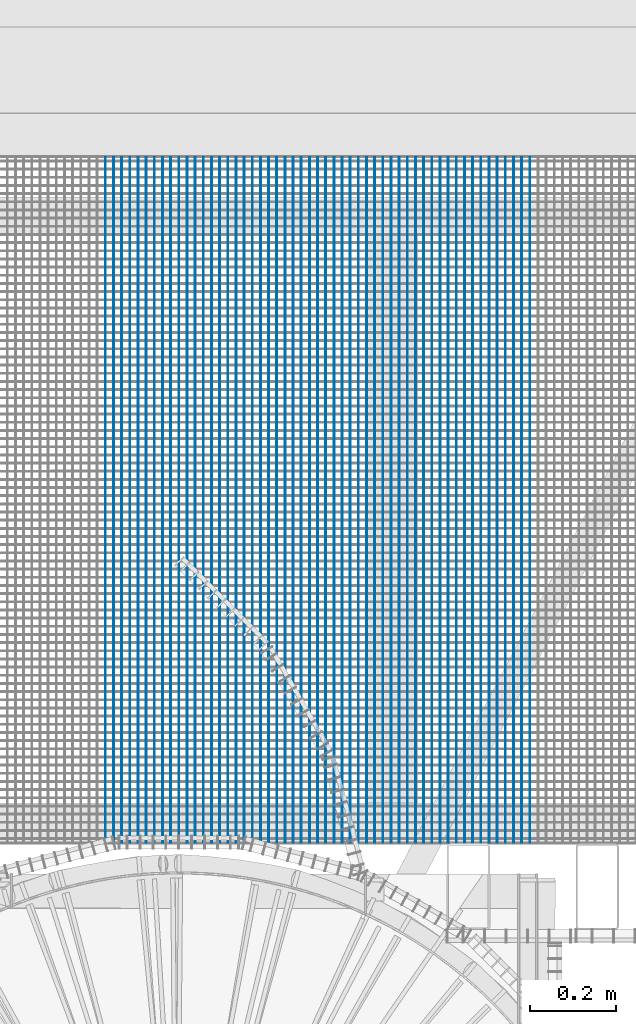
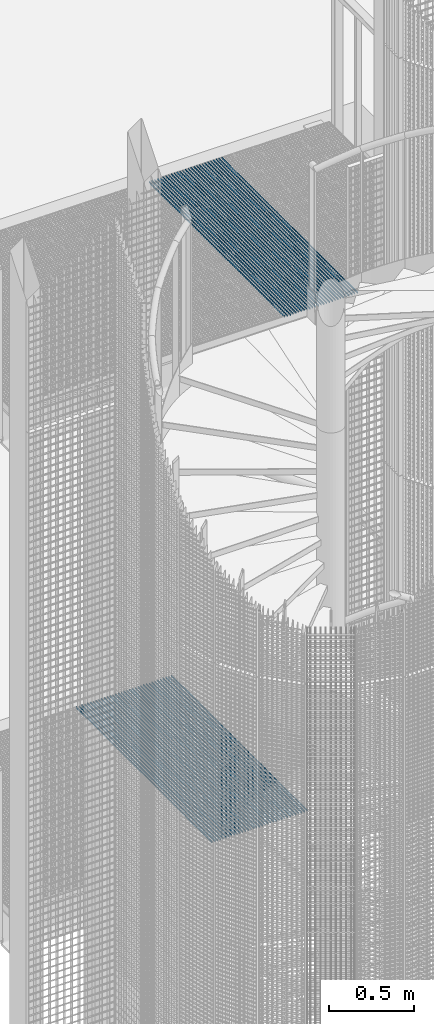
# One storey, part 98 of 1148: 62 beams, 2 elements without a shape of their own.
"""IFC2X3 building model written with IfcOpenShell, lengths in millimetres."""

import ifcopenshell
import ifcopenshell.guid

model = None  # the IFC model being written
_history = None  # IfcOwnerHistory: only IFC2X3 demands one
_inside = {}  # id of a spatial element -> (the spatial element, [elements in it])
_under = {}  # id of a project, library or spatial element -> (it, [spatial elements below it])
_declared = {}  # id of a project -> (the project, [libraries it declares])
_typed = {}  # id of a type object -> (the type object, [elements of that type])
_made_of = {}  # id of a material, layer set ... -> (it, [elements and type objects made of it])


def new_model(schema):
    """Start an empty IFC model of exactly this schema.

    Asked for "IFC4X3", IfcOpenShell would pick the latest addendum, in which some entities
    have other attributes; the version numbers below select the first issue.
    IFC2X3 requires an IfcOwnerHistory on every rooted entity: one is made here for all.
    """
    global model, _history
    if schema == "IFC4X3":
        model = ifcopenshell.file(schema_version=(4, 3, 0, 0))
    else:
        model = ifcopenshell.file(schema=schema)
    _inside.clear()
    _under.clear()
    _declared.clear()
    _typed.clear()
    _made_of.clear()
    _history = None
    if model.schema == "IFC2X3":
        org = make("IfcOrganization", Name="unknown")
        user = make(
            "IfcPersonAndOrganization",
            ThePerson=make("IfcPerson", FamilyName="unknown"),
            TheOrganization=org,
        )
        app = make(
            "IfcApplication",
            ApplicationDeveloper=org,
            Version="unknown",
            ApplicationFullName="unknown",
            ApplicationIdentifier="unknown",
        )
        _history = make(
            "IfcOwnerHistory",
            OwningUser=user,
            OwningApplication=app,
            ChangeAction="ADDED",
            CreationDate=0,
        )
    return model


def make(cls, **values):
    """One entity of the class cls with the attributes given. An attribute that is None is left unset."""
    return model.create_entity(
        cls, **{name: value for name, value in values.items() if value is not None}
    )


def rooted(cls, **values):
    """An entity with a GlobalId (a new one), such as an element, a storey or a relation."""
    return make(cls, GlobalId=ifcopenshell.guid.new(), OwnerHistory=_history, **values)


def si_unit(unit_type, name, prefix=None):
    """IfcSIUnit, for example si_unit("LENGTHUNIT", "METRE", prefix="MILLI")."""
    return make("IfcSIUnit", UnitType=unit_type, Prefix=prefix, Name=name)


def assignment(units):
    """IfcUnitAssignment: the units of a project."""
    return None if units is None else make("IfcUnitAssignment", Units=units)


def point(xyz):
    """IfcCartesianPoint."""
    return None if xyz is None else make("IfcCartesianPoint", Coordinates=xyz)


def direction(xyz):
    """IfcDirection."""
    return None if xyz is None else make("IfcDirection", DirectionRatios=xyz)


def frame(location, z_axis=None, x_axis=None):
    """IfcAxis2Placement3D, a coordinate frame: its origin and axes. An axis left out is left unset."""
    return make(
        "IfcAxis2Placement3D",
        Location=point(location),
        Axis=direction(z_axis),
        RefDirection=direction(x_axis),
    )


def frame_2d(location, x_axis=None):
    """IfcAxis2Placement2D, a coordinate frame in the plane: its origin and x axis."""
    return make(
        "IfcAxis2Placement2D", Location=point(location), RefDirection=direction(x_axis)
    )


def origin_with_axes():
    """The frame at (0, 0, 0) with the z axis (0, 0, 1) and the x axis (1, 0, 0) written out."""
    return frame((0.0, 0.0, 0.0), z_axis=(0.0, 0.0, 1.0), x_axis=(1.0, 0.0, 0.0))


def origin_2d_with_axis():
    """The frame at (0, 0) in the plane with the x axis (1, 0) written out."""
    return frame_2d((0.0, 0.0), x_axis=(1.0, 0.0))


def place(relative_to, where):
    """IfcLocalPlacement: puts the frame where relative to a parent placement (None: the world)."""
    return make(
        "IfcLocalPlacement", PlacementRelTo=relative_to, RelativePlacement=where
    )


def context(
    kind, dimensions, precision=None, world=None, true_north=None, identifier=None
):
    """IfcGeometricRepresentationContext, for example the 3D "Model" context."""
    return make(
        "IfcGeometricRepresentationContext",
        ContextIdentifier=identifier,
        ContextType=kind,
        CoordinateSpaceDimension=dimensions,
        Precision=precision,
        WorldCoordinateSystem=world,
        TrueNorth=true_north,
    )


def subcontext(parent, identifier, kind, view, scale=None):
    """IfcGeometricRepresentationSubContext, for example "Body" below "Model"."""
    return make(
        "IfcGeometricRepresentationSubContext",
        ContextIdentifier=identifier,
        ContextType=kind,
        ParentContext=parent,
        TargetScale=scale,
        TargetView=view,
    )


def project(units=None, contexts=None):
    """IfcProject with its units and contexts."""
    return rooted(
        "IfcProject",
        Name="project",
        RepresentationContexts=contexts,
        UnitsInContext=assignment(units),
    )


def spatial(cls, under=None, at=None, **own):
    """A site, building, storey or space (cls), placed at a placement, below another one or the project."""
    s = rooted(cls, ObjectPlacement=at, **own)
    if under is not None:
        _under.setdefault(under.id(), (under, []))[1].append(s)
    return s


def profile(cls, at=None, kind="AREA", **sizes):
    """A parametric profile (cls). Its sizes go by their IFC names, for example OverallWidth=200.0."""
    return make(cls, ProfileType=kind, Position=at, **sizes)


def rectangle(**sizes):
    """IfcRectangleProfileDef."""
    return profile("IfcRectangleProfileDef", **sizes)


def extrude(swept, where, along, depth):
    """IfcExtrudedAreaSolid: the profile swept, set in the frame where, extruded along a direction by depth."""
    return make(
        "IfcExtrudedAreaSolid",
        SweptArea=swept,
        Position=where,
        ExtrudedDirection=direction(along),
        Depth=depth,
    )


def shape(context_of_items, identifier, shape_type, items):
    """IfcShapeRepresentation: the items that make up one representation, for example the "Body"."""
    return make(
        "IfcShapeRepresentation",
        ContextOfItems=context_of_items,
        RepresentationIdentifier=identifier,
        RepresentationType=shape_type,
        Items=items,
    )


def material(Name=None, Category=None):
    """IfcMaterial."""
    return make("IfcMaterial", Name=Name, Category=Category)


def made_of(thing, what):
    """Note that an element or type object is made of a material, layer set ...; save() writes the relation."""
    if what is not None:
        _made_of.setdefault(what.id(), (what, []))[1].append(thing)
    return thing


def type_object(cls, material=None, **own):
    """A type object (cls), such as IfcWallType, which elements share."""
    return made_of(rooted(cls, **own), material)


def element(
    cls,
    number,
    at=None,
    inside=None,
    cuts=None,
    type_object=None,
    material=None,
    context=None,
    identifier="Body",
    shape_type=None,
    held_by="IfcProductDefinitionShape",
    body=None,
    shapes=None,
    **own,
):
    """One element of the class cls, such as IfcWall. Its Tag is "e" and its number.

    at: its placement. inside: the storey or other place that contains it. cuts: it is an
    opening in that element (IfcRelVoidsElement). A single representation is given by context,
    identifier, shape_type and body (its items); several are given by shapes. held_by: the class
    of the entity that holds the representations. save() writes the other relations.
    """
    e = rooted(cls, Tag="e%d" % number, ObjectPlacement=at, **own)
    if body is not None:
        shapes = [shape(context, identifier, shape_type, body)]
    if shapes is not None:
        e.Representation = make(held_by, Representations=shapes)
    if inside is not None:
        _inside.setdefault(inside.id(), (inside, []))[1].append(e)
    if cuts is not None:
        rooted(
            "IfcRelVoidsElement", RelatingBuildingElement=cuts, RelatedOpeningElement=e
        )
    if type_object is not None:
        _typed.setdefault(type_object.id(), (type_object, []))[1].append(e)
    return made_of(e, material)


def aggregate(whole, parts):
    """IfcRelAggregates: a whole, such as a stair, and the parts it consists of."""
    return rooted("IfcRelAggregates", RelatingObject=whole, RelatedObjects=parts)


def save(model, path):
    """Write the relations noted so far, then the file.

    IfcRelAggregates (storeys below a building ...), IfcRelContainedInSpatialStructure (elements
    in a storey), IfcRelDefinesByType, IfcRelAssociatesMaterial and IfcRelDeclares: one each for
    every whole, place, type object, material and project.
    """
    for whole, parts in _under.values():
        aggregate(whole, parts)
    for where, things in _inside.values():
        rooted(
            "IfcRelContainedInSpatialStructure",
            RelatedElements=things,
            RelatingStructure=where,
        )
    for kind, things in _typed.values():
        rooted("IfcRelDefinesByType", RelatedObjects=things, RelatingType=kind)
    for what, things in _made_of.values():
        rooted("IfcRelAssociatesMaterial", RelatedObjects=things, RelatingMaterial=what)
    for by, libraries in _declared.values():
        rooted("IfcRelDeclares", RelatingContext=by, RelatedDefinitions=libraries)
    model.write(path)


model = new_model("IFC2X3")

# Units and contexts
model_context = context("Model", 3, precision=1e-05, world=origin_with_axes())
body_context = subcontext(model_context, "Body", "Model", "MODEL_VIEW")
ifc_project = project(units=[si_unit("LENGTHUNIT", "METRE", prefix="MILLI"), si_unit("AREAUNIT", "SQUARE_METRE"), si_unit("VOLUMEUNIT", "CUBIC_METRE"), si_unit("MASSUNIT", "GRAM", prefix="KILO"), si_unit("TIMEUNIT", "SECOND"), si_unit("PLANEANGLEUNIT", "RADIAN"), si_unit("SOLIDANGLEUNIT", "STERADIAN"), si_unit("THERMODYNAMICTEMPERATUREUNIT", "DEGREE_CELSIUS"), si_unit("LUMINOUSINTENSITYUNIT", "LUMEN")], contexts=[model_context])

# Site, building, storey
site_placement = place(None, origin_with_axes())
site = spatial("IfcSite", under=ifc_project, at=site_placement, Name="Undefined", CompositionType="ELEMENT")
building_placement = place(site_placement, origin_with_axes())
building = spatial("IfcBuilding", under=site, at=building_placement, Name="Undefined", CompositionType="ELEMENT")
storey_placement = place(building_placement, origin_with_axes())
storey = spatial("IfcBuildingStorey", under=building, at=storey_placement, Name="Undefined", CompositionType="ELEMENT", Elevation=0.0)

# Assembly, beams
assembly_1_placement = place(storey_placement, origin_with_axes())
assembly_1 = element("IfcElementAssembly", 1, at=assembly_1_placement, inside=storey, Name="BORDURE", AssemblyPlace="NOTDEFINED", PredefinedType="NOTDEFINED")
ifc_material = material(Name="STEEL/S235JR")
beam_type = type_object("IfcBeamType", Name="PL2*10", PredefinedType="NOTDEFINED")
beam_1_placement = place(assembly_1_placement, frame((21923.1154247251, 1102.00390883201, 10085.0), z_axis=(0.0, 0.0, 1.0), x_axis=(-4.50599999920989e-06, 0.999999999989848, 0.0)))
beam_1 = element("IfcBeam", 2, at=beam_1_placement, type_object=beam_type, material=ifc_material, Name="ENTRETOISE", context=body_context, shape_type="SweptSolid", body=[
    extrude(rectangle(XDim=2.0, YDim=10.0, at=origin_2d_with_axis()), frame((1596.0000000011, -1.35186458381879e-18, -7.27595761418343e-12), z_axis=(-1.0, 0.0, 0.0), x_axis=(0.0, -1.0, 0.0)), (0.0, 0.0, 1.0), 1596.0),
])
beam_2_placement = place(assembly_1_placement, frame((21942.115424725, 1102.00400234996, 10085.0), z_axis=(0.0, 0.0, 1.0), x_axis=(-4.50599999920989e-06, 0.999999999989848, 0.0)))
beam_2 = element("IfcBeam", 3, at=beam_2_placement, type_object=beam_type, material=ifc_material, Name="ENTRETOISE", context=body_context, shape_type="SweptSolid", body=[
    extrude(rectangle(XDim=2.0, YDim=10.0, at=origin_2d_with_axis()), frame((1596.0000000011, -1.35186458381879e-18, -7.27595761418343e-12), z_axis=(-1.0, 0.0, 0.0), x_axis=(0.0, -1.0, 0.0)), (0.0, 0.0, 1.0), 1596.0),
])
beam_3_placement = place(assembly_1_placement, frame((21961.115424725, 1102.00409586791, 10085.0), z_axis=(0.0, 0.0, 1.0), x_axis=(-4.50599999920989e-06, 0.999999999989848, 0.0)))
beam_3 = element("IfcBeam", 4, at=beam_3_placement, type_object=beam_type, material=ifc_material, Name="ENTRETOISE", context=body_context, shape_type="SweptSolid", body=[
    extrude(rectangle(XDim=2.0, YDim=10.0, at=origin_2d_with_axis()), frame((1596.0000000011, -1.35186458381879e-18, -7.27595761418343e-12), z_axis=(-1.0, 0.0, 0.0), x_axis=(0.0, -1.0, 0.0)), (0.0, 0.0, 1.0), 1596.0),
])
beam_4_placement = place(assembly_1_placement, frame((21980.1154247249, 1102.00418938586, 10085.0), z_axis=(0.0, 0.0, 1.0), x_axis=(-4.50599999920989e-06, 0.999999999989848, 0.0)))
beam_4 = element("IfcBeam", 5, at=beam_4_placement, type_object=beam_type, material=ifc_material, Name="ENTRETOISE", context=body_context, shape_type="SweptSolid", body=[
    extrude(rectangle(XDim=2.0, YDim=10.0, at=origin_2d_with_axis()), frame((1596.0000000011, -1.35186458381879e-18, -7.27595761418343e-12), z_axis=(-1.0, 0.0, 0.0), x_axis=(0.0, -1.0, 0.0)), (0.0, 0.0, 1.0), 1596.0),
])
beam_5_placement = place(assembly_1_placement, frame((21999.1154247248, 1102.0042829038, 10085.0), z_axis=(0.0, 0.0, 1.0), x_axis=(-4.50599999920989e-06, 0.999999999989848, 0.0)))
beam_5 = element("IfcBeam", 6, at=beam_5_placement, type_object=beam_type, material=ifc_material, Name="ENTRETOISE", context=body_context, shape_type="SweptSolid", body=[
    extrude(rectangle(XDim=2.0, YDim=10.0, at=origin_2d_with_axis()), frame((1596.0000000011, -1.35186458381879e-18, -7.27595761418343e-12), z_axis=(-1.0, 0.0, 0.0), x_axis=(0.0, -1.0, 0.0)), (0.0, 0.0, 1.0), 1596.0),
])
beam_6_placement = place(assembly_1_placement, frame((22018.1154247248, 1102.00437642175, 10085.0), z_axis=(0.0, 0.0, 1.0), x_axis=(-4.50599999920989e-06, 0.999999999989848, 0.0)))
beam_6 = element("IfcBeam", 7, at=beam_6_placement, type_object=beam_type, material=ifc_material, Name="ENTRETOISE", context=body_context, shape_type="SweptSolid", body=[
    extrude(rectangle(XDim=2.0, YDim=10.0, at=origin_2d_with_axis()), frame((1596.0000000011, -1.35186458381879e-18, -7.27595761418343e-12), z_axis=(-1.0, 0.0, 0.0), x_axis=(0.0, -1.0, 0.0)), (0.0, 0.0, 1.0), 1596.0),
])
beam_7_placement = place(assembly_1_placement, frame((22037.1154247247, 1102.0044699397, 10085.0), z_axis=(0.0, 0.0, 1.0), x_axis=(-4.50599999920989e-06, 0.999999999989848, 0.0)))
beam_7 = element("IfcBeam", 8, at=beam_7_placement, type_object=beam_type, material=ifc_material, Name="ENTRETOISE", context=body_context, shape_type="SweptSolid", body=[
    extrude(rectangle(XDim=2.0, YDim=10.0, at=origin_2d_with_axis()), frame((1596.0000000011, -1.35186458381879e-18, -7.27595761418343e-12), z_axis=(-1.0, 0.0, 0.0), x_axis=(0.0, -1.0, 0.0)), (0.0, 0.0, 1.0), 1596.0),
])
beam_8_placement = place(assembly_1_placement, frame((22056.1154247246, 1102.00456345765, 10085.0), z_axis=(0.0, 0.0, 1.0), x_axis=(-4.50599999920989e-06, 0.999999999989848, 0.0)))
beam_8 = element("IfcBeam", 9, at=beam_8_placement, type_object=beam_type, material=ifc_material, Name="ENTRETOISE", context=body_context, shape_type="SweptSolid", body=[
    extrude(rectangle(XDim=2.0, YDim=10.0, at=origin_2d_with_axis()), frame((1596.0000000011, -1.35186458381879e-18, -7.27595761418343e-12), z_axis=(-1.0, 0.0, 0.0), x_axis=(0.0, -1.0, 0.0)), (0.0, 0.0, 1.0), 1596.0),
])
beam_9_placement = place(assembly_1_placement, frame((22075.1154247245, 1102.0046569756, 10085.0), z_axis=(0.0, 0.0, 1.0), x_axis=(-4.50599999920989e-06, 0.999999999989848, 0.0)))
beam_9 = element("IfcBeam", 10, at=beam_9_placement, type_object=beam_type, material=ifc_material, Name="ENTRETOISE", context=body_context, shape_type="SweptSolid", body=[
    extrude(rectangle(XDim=2.0, YDim=10.0, at=origin_2d_with_axis()), frame((1596.0000000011, -1.35186458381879e-18, -7.27595761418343e-12), z_axis=(-1.0, 0.0, 0.0), x_axis=(0.0, -1.0, 0.0)), (0.0, 0.0, 1.0), 1596.0),
])
beam_10_placement = place(assembly_1_placement, frame((22094.1154247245, 1102.00475049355, 10085.0), z_axis=(0.0, 0.0, 1.0), x_axis=(-4.50599999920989e-06, 0.999999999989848, 0.0)))
beam_10 = element("IfcBeam", 11, at=beam_10_placement, type_object=beam_type, material=ifc_material, Name="ENTRETOISE", context=body_context, shape_type="SweptSolid", body=[
    extrude(rectangle(XDim=2.0, YDim=10.0, at=origin_2d_with_axis()), frame((1596.0000000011, -1.35186458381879e-18, -7.27595761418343e-12), z_axis=(-1.0, 0.0, 0.0), x_axis=(0.0, -1.0, 0.0)), (0.0, 0.0, 1.0), 1596.0),
])
beam_11_placement = place(assembly_1_placement, frame((22113.1154247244, 1102.0048440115, 10085.0), z_axis=(0.0, 0.0, 1.0), x_axis=(-4.50599999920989e-06, 0.999999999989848, 0.0)))
beam_11 = element("IfcBeam", 12, at=beam_11_placement, type_object=beam_type, material=ifc_material, Name="ENTRETOISE", context=body_context, shape_type="SweptSolid", body=[
    extrude(rectangle(XDim=2.0, YDim=10.0, at=origin_2d_with_axis()), frame((1596.0000000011, -1.35186458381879e-18, -7.27595761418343e-12), z_axis=(-1.0, 0.0, 0.0), x_axis=(0.0, -1.0, 0.0)), (0.0, 0.0, 1.0), 1596.0),
])
beam_12_placement = place(assembly_1_placement, frame((22132.1154247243, 1102.00493752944, 10085.0), z_axis=(0.0, 0.0, 1.0), x_axis=(-4.50599999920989e-06, 0.999999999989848, 0.0)))
beam_12 = element("IfcBeam", 13, at=beam_12_placement, type_object=beam_type, material=ifc_material, Name="ENTRETOISE", context=body_context, shape_type="SweptSolid", body=[
    extrude(rectangle(XDim=2.0, YDim=10.0, at=origin_2d_with_axis()), frame((1596.0000000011, -1.35186458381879e-18, -7.27595761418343e-12), z_axis=(-1.0, 0.0, 0.0), x_axis=(0.0, -1.0, 0.0)), (0.0, 0.0, 1.0), 1596.0),
])
beam_13_placement = place(assembly_1_placement, frame((22151.1154247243, 1102.00503104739, 10085.0), z_axis=(0.0, 0.0, 1.0), x_axis=(-4.50599999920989e-06, 0.999999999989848, 0.0)))
beam_13 = element("IfcBeam", 14, at=beam_13_placement, type_object=beam_type, material=ifc_material, Name="ENTRETOISE", context=body_context, shape_type="SweptSolid", body=[
    extrude(rectangle(XDim=2.0, YDim=10.0, at=origin_2d_with_axis()), frame((1596.0000000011, -1.35186458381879e-18, -7.27595761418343e-12), z_axis=(-1.0, 0.0, 0.0), x_axis=(0.0, -1.0, 0.0)), (0.0, 0.0, 1.0), 1596.0),
])
beam_14_placement = place(assembly_1_placement, frame((22170.1154247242, 1102.00512456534, 10085.0), z_axis=(0.0, 0.0, 1.0), x_axis=(-4.50599999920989e-06, 0.999999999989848, 0.0)))
beam_14 = element("IfcBeam", 15, at=beam_14_placement, type_object=beam_type, material=ifc_material, Name="ENTRETOISE", context=body_context, shape_type="SweptSolid", body=[
    extrude(rectangle(XDim=2.0, YDim=10.0, at=origin_2d_with_axis()), frame((1596.0000000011, -1.35186458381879e-18, -7.27595761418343e-12), z_axis=(-1.0, 0.0, 0.0), x_axis=(0.0, -1.0, 0.0)), (0.0, 0.0, 1.0), 1596.0),
])
beam_15_placement = place(assembly_1_placement, frame((22189.1154247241, 1102.00521808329, 10085.0), z_axis=(0.0, 0.0, 1.0), x_axis=(-4.50599999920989e-06, 0.999999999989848, 0.0)))
beam_15 = element("IfcBeam", 16, at=beam_15_placement, type_object=beam_type, material=ifc_material, Name="ENTRETOISE", context=body_context, shape_type="SweptSolid", body=[
    extrude(rectangle(XDim=2.0, YDim=10.0, at=origin_2d_with_axis()), frame((1596.0000000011, -1.35186458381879e-18, -7.27595761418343e-12), z_axis=(-1.0, 0.0, 0.0), x_axis=(0.0, -1.0, 0.0)), (0.0, 0.0, 1.0), 1596.0),
])
beam_16_placement = place(assembly_1_placement, frame((22208.1154247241, 1102.00531160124, 10085.0), z_axis=(0.0, 0.0, 1.0), x_axis=(-4.50599999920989e-06, 0.999999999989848, 0.0)))
beam_16 = element("IfcBeam", 17, at=beam_16_placement, type_object=beam_type, material=ifc_material, Name="ENTRETOISE", context=body_context, shape_type="SweptSolid", body=[
    extrude(rectangle(XDim=2.0, YDim=10.0, at=origin_2d_with_axis()), frame((1596.0000000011, -1.35186458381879e-18, -7.27595761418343e-12), z_axis=(-1.0, 0.0, 0.0), x_axis=(0.0, -1.0, 0.0)), (0.0, 0.0, 1.0), 1596.0),
])
beam_17_placement = place(assembly_1_placement, frame((22227.115424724, 1102.00540511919, 10085.0), z_axis=(0.0, 0.0, 1.0), x_axis=(-4.50599999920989e-06, 0.999999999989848, 0.0)))
beam_17 = element("IfcBeam", 18, at=beam_17_placement, type_object=beam_type, material=ifc_material, Name="ENTRETOISE", context=body_context, shape_type="SweptSolid", body=[
    extrude(rectangle(XDim=2.0, YDim=10.0, at=origin_2d_with_axis()), frame((1596.0000000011, -1.35186458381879e-18, -7.27595761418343e-12), z_axis=(-1.0, 0.0, 0.0), x_axis=(0.0, -1.0, 0.0)), (0.0, 0.0, 1.0), 1596.0),
])
beam_18_placement = place(assembly_1_placement, frame((22246.1154247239, 1102.00549863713, 10085.0), z_axis=(0.0, 0.0, 1.0), x_axis=(-4.50599999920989e-06, 0.999999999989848, 0.0)))
beam_18 = element("IfcBeam", 19, at=beam_18_placement, type_object=beam_type, material=ifc_material, Name="ENTRETOISE", context=body_context, shape_type="SweptSolid", body=[
    extrude(rectangle(XDim=2.0, YDim=10.0, at=origin_2d_with_axis()), frame((1596.0000000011, -1.35186458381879e-18, -7.27595761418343e-12), z_axis=(-1.0, 0.0, 0.0), x_axis=(0.0, -1.0, 0.0)), (0.0, 0.0, 1.0), 1596.0),
])
beam_19_placement = place(assembly_1_placement, frame((22265.1154247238, 1102.00559215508, 10085.0), z_axis=(0.0, 0.0, 1.0), x_axis=(-4.50599999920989e-06, 0.999999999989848, 0.0)))
beam_19 = element("IfcBeam", 20, at=beam_19_placement, type_object=beam_type, material=ifc_material, Name="ENTRETOISE", context=body_context, shape_type="SweptSolid", body=[
    extrude(rectangle(XDim=2.0, YDim=10.0, at=origin_2d_with_axis()), frame((1596.0000000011, -1.35186458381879e-18, -7.27595761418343e-12), z_axis=(-1.0, 0.0, 0.0), x_axis=(0.0, -1.0, 0.0)), (0.0, 0.0, 1.0), 1596.0),
])
beam_20_placement = place(assembly_1_placement, frame((22284.1154247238, 1102.00568567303, 10085.0), z_axis=(0.0, 0.0, 1.0), x_axis=(-4.50599999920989e-06, 0.999999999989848, 0.0)))
beam_20 = element("IfcBeam", 21, at=beam_20_placement, type_object=beam_type, material=ifc_material, Name="ENTRETOISE", context=body_context, shape_type="SweptSolid", body=[
    extrude(rectangle(XDim=2.0, YDim=10.0, at=origin_2d_with_axis()), frame((1596.0000000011, -1.35186458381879e-18, -7.27595761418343e-12), z_axis=(-1.0, 0.0, 0.0), x_axis=(0.0, -1.0, 0.0)), (0.0, 0.0, 1.0), 1596.0),
])
beam_21_placement = place(assembly_1_placement, frame((22303.1154247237, 1102.00577919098, 10085.0), z_axis=(0.0, 0.0, 1.0), x_axis=(-4.50599999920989e-06, 0.999999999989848, 0.0)))
beam_21 = element("IfcBeam", 22, at=beam_21_placement, type_object=beam_type, material=ifc_material, Name="ENTRETOISE", context=body_context, shape_type="SweptSolid", body=[
    extrude(rectangle(XDim=2.0, YDim=10.0, at=origin_2d_with_axis()), frame((1596.0000000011, -1.35186458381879e-18, -7.27595761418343e-12), z_axis=(-1.0, 0.0, 0.0), x_axis=(0.0, -1.0, 0.0)), (0.0, 0.0, 1.0), 1596.0),
])
beam_22_placement = place(assembly_1_placement, frame((22322.1154247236, 1102.00587270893, 10085.0), z_axis=(0.0, 0.0, 1.0), x_axis=(-4.50599999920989e-06, 0.999999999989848, 0.0)))
beam_22 = element("IfcBeam", 23, at=beam_22_placement, type_object=beam_type, material=ifc_material, Name="ENTRETOISE", context=body_context, shape_type="SweptSolid", body=[
    extrude(rectangle(XDim=2.0, YDim=10.0, at=origin_2d_with_axis()), frame((1596.0000000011, -1.35186458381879e-18, -7.27595761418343e-12), z_axis=(-1.0, 0.0, 0.0), x_axis=(0.0, -1.0, 0.0)), (0.0, 0.0, 1.0), 1596.0),
])
beam_23_placement = place(assembly_1_placement, frame((22341.1154247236, 1102.00596622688, 10085.0), z_axis=(0.0, 0.0, 1.0), x_axis=(-4.50599999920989e-06, 0.999999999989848, 0.0)))
beam_23 = element("IfcBeam", 24, at=beam_23_placement, type_object=beam_type, material=ifc_material, Name="ENTRETOISE", context=body_context, shape_type="SweptSolid", body=[
    extrude(rectangle(XDim=2.0, YDim=10.0, at=origin_2d_with_axis()), frame((1596.0000000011, -1.35186458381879e-18, -7.27595761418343e-12), z_axis=(-1.0, 0.0, 0.0), x_axis=(0.0, -1.0, 0.0)), (0.0, 0.0, 1.0), 1596.0),
])
beam_24_placement = place(assembly_1_placement, frame((22360.1154247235, 1102.00605974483, 10085.0), z_axis=(0.0, 0.0, 1.0), x_axis=(-4.50599999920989e-06, 0.999999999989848, 0.0)))
beam_24 = element("IfcBeam", 25, at=beam_24_placement, type_object=beam_type, material=ifc_material, Name="ENTRETOISE", context=body_context, shape_type="SweptSolid", body=[
    extrude(rectangle(XDim=2.0, YDim=10.0, at=origin_2d_with_axis()), frame((1596.0000000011, -1.35186458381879e-18, -7.27595761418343e-12), z_axis=(-1.0, 0.0, 0.0), x_axis=(0.0, -1.0, 0.0)), (0.0, 0.0, 1.0), 1596.0),
])
beam_25_placement = place(assembly_1_placement, frame((22379.1154247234, 1102.00615326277, 10085.0), z_axis=(0.0, 0.0, 1.0), x_axis=(-4.50599999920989e-06, 0.999999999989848, 0.0)))
beam_25 = element("IfcBeam", 26, at=beam_25_placement, type_object=beam_type, material=ifc_material, Name="ENTRETOISE", context=body_context, shape_type="SweptSolid", body=[
    extrude(rectangle(XDim=2.0, YDim=10.0, at=origin_2d_with_axis()), frame((1596.0000000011, -1.35186458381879e-18, -7.27595761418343e-12), z_axis=(-1.0, 0.0, 0.0), x_axis=(0.0, -1.0, 0.0)), (0.0, 0.0, 1.0), 1596.0),
])
beam_26_placement = place(assembly_1_placement, frame((22398.1154247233, 1102.00624678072, 10085.0), z_axis=(0.0, 0.0, 1.0), x_axis=(-4.50599999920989e-06, 0.999999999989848, 0.0)))
beam_26 = element("IfcBeam", 27, at=beam_26_placement, type_object=beam_type, material=ifc_material, Name="ENTRETOISE", context=body_context, shape_type="SweptSolid", body=[
    extrude(rectangle(XDim=2.0, YDim=10.0, at=origin_2d_with_axis()), frame((1596.0000000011, -1.35186458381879e-18, -7.27595761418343e-12), z_axis=(-1.0, 0.0, 0.0), x_axis=(0.0, -1.0, 0.0)), (0.0, 0.0, 1.0), 1596.0),
])
beam_27_placement = place(assembly_1_placement, frame((22417.1154247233, 1102.00634029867, 10085.0), z_axis=(0.0, 0.0, 1.0), x_axis=(-4.50599999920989e-06, 0.999999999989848, 0.0)))
beam_27 = element("IfcBeam", 28, at=beam_27_placement, type_object=beam_type, material=ifc_material, Name="ENTRETOISE", context=body_context, shape_type="SweptSolid", body=[
    extrude(rectangle(XDim=2.0, YDim=10.0, at=origin_2d_with_axis()), frame((1596.0000000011, -1.35186458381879e-18, -7.27595761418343e-12), z_axis=(-1.0, 0.0, 0.0), x_axis=(0.0, -1.0, 0.0)), (0.0, 0.0, 1.0), 1596.0),
])
aggregate(assembly_1, [beam_1, beam_2, beam_3, beam_4, beam_5, beam_6, beam_7, beam_8, beam_9, beam_10, beam_11, beam_12, beam_13, beam_14, beam_15, beam_16, beam_17, beam_18, beam_19, beam_20, beam_21, beam_22, beam_23, beam_24, beam_25, beam_26, beam_27])

assembly_2_placement = place(storey_placement, origin_with_axes())
assembly_2 = element("IfcElementAssembly", 29, at=assembly_2_placement, inside=storey, Name="BORDURE", AssemblyPlace="NOTDEFINED", PredefinedType="NOTDEFINED")
beam_28_placement = place(assembly_2_placement, frame((21429.115424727, 1102.00147736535, 6485.0), z_axis=(0.0, 0.0, 1.0), x_axis=(-4.50599999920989e-06, 0.999999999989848, 0.0)))
beam_28 = element("IfcBeam", 30, at=beam_28_placement, type_object=beam_type, material=ifc_material, Name="ENTRETOISE", context=body_context, shape_type="SweptSolid", body=[
    extrude(rectangle(XDim=2.0, YDim=10.0, at=origin_2d_with_axis()), frame((1596.0000000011, -1.35186458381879e-18, -7.27595761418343e-12), z_axis=(-1.0, 0.0, 0.0), x_axis=(0.0, -1.0, 0.0)), (0.0, 0.0, 1.0), 1596.0),
])
beam_29_placement = place(assembly_2_placement, frame((21448.1154247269, 1102.0015708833, 6485.0), z_axis=(0.0, 0.0, 1.0), x_axis=(-4.50599999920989e-06, 0.999999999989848, 0.0)))
beam_29 = element("IfcBeam", 31, at=beam_29_placement, type_object=beam_type, material=ifc_material, Name="ENTRETOISE", context=body_context, shape_type="SweptSolid", body=[
    extrude(rectangle(XDim=2.0, YDim=10.0, at=origin_2d_with_axis()), frame((1596.0000000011, -1.35186458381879e-18, -7.27595761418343e-12), z_axis=(-1.0, 0.0, 0.0), x_axis=(0.0, -1.0, 0.0)), (0.0, 0.0, 1.0), 1596.0),
])
beam_30_placement = place(assembly_2_placement, frame((21467.1154247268, 1102.00166440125, 6485.0), z_axis=(0.0, 0.0, 1.0), x_axis=(-4.50599999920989e-06, 0.999999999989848, 0.0)))
beam_30 = element("IfcBeam", 32, at=beam_30_placement, type_object=beam_type, material=ifc_material, Name="ENTRETOISE", context=body_context, shape_type="SweptSolid", body=[
    extrude(rectangle(XDim=2.0, YDim=10.0, at=origin_2d_with_axis()), frame((1596.0000000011, -1.35186458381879e-18, -7.27595761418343e-12), z_axis=(-1.0, 0.0, 0.0), x_axis=(0.0, -1.0, 0.0)), (0.0, 0.0, 1.0), 1596.0),
])
beam_31_placement = place(assembly_2_placement, frame((21486.1154247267, 1102.0017579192, 6485.0), z_axis=(0.0, 0.0, 1.0), x_axis=(-4.50599999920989e-06, 0.999999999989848, 0.0)))
beam_31 = element("IfcBeam", 33, at=beam_31_placement, type_object=beam_type, material=ifc_material, Name="ENTRETOISE", context=body_context, shape_type="SweptSolid", body=[
    extrude(rectangle(XDim=2.0, YDim=10.0, at=origin_2d_with_axis()), frame((1596.0000000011, -1.35186458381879e-18, -7.27595761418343e-12), z_axis=(-1.0, 0.0, 0.0), x_axis=(0.0, -1.0, 0.0)), (0.0, 0.0, 1.0), 1596.0),
])
beam_32_placement = place(assembly_2_placement, frame((21505.1154247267, 1102.00185143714, 6485.0), z_axis=(0.0, 0.0, 1.0), x_axis=(-4.50599999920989e-06, 0.999999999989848, 0.0)))
beam_32 = element("IfcBeam", 34, at=beam_32_placement, type_object=beam_type, material=ifc_material, Name="ENTRETOISE", context=body_context, shape_type="SweptSolid", body=[
    extrude(rectangle(XDim=2.0, YDim=10.0, at=origin_2d_with_axis()), frame((1596.0000000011, -1.35186458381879e-18, -7.27595761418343e-12), z_axis=(-1.0, 0.0, 0.0), x_axis=(0.0, -1.0, 0.0)), (0.0, 0.0, 1.0), 1596.0),
])
beam_33_placement = place(assembly_2_placement, frame((21524.1154247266, 1102.00194495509, 6485.0), z_axis=(0.0, 0.0, 1.0), x_axis=(-4.50599999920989e-06, 0.999999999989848, 0.0)))
beam_33 = element("IfcBeam", 35, at=beam_33_placement, type_object=beam_type, material=ifc_material, Name="ENTRETOISE", context=body_context, shape_type="SweptSolid", body=[
    extrude(rectangle(XDim=2.0, YDim=10.0, at=origin_2d_with_axis()), frame((1596.0000000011, -1.35186458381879e-18, -7.27595761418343e-12), z_axis=(-1.0, 0.0, 0.0), x_axis=(0.0, -1.0, 0.0)), (0.0, 0.0, 1.0), 1596.0),
])
beam_34_placement = place(assembly_2_placement, frame((21543.1154247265, 1102.00203847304, 6485.0), z_axis=(0.0, 0.0, 1.0), x_axis=(-4.50599999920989e-06, 0.999999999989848, 0.0)))
beam_34 = element("IfcBeam", 36, at=beam_34_placement, type_object=beam_type, material=ifc_material, Name="ENTRETOISE", context=body_context, shape_type="SweptSolid", body=[
    extrude(rectangle(XDim=2.0, YDim=10.0, at=origin_2d_with_axis()), frame((1596.0000000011, -1.35186458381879e-18, -7.27595761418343e-12), z_axis=(-1.0, 0.0, 0.0), x_axis=(0.0, -1.0, 0.0)), (0.0, 0.0, 1.0), 1596.0),
])
beam_35_placement = place(assembly_2_placement, frame((21562.1154247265, 1102.00213199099, 6485.0), z_axis=(0.0, 0.0, 1.0), x_axis=(-4.50599999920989e-06, 0.999999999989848, 0.0)))
beam_35 = element("IfcBeam", 37, at=beam_35_placement, type_object=beam_type, material=ifc_material, Name="ENTRETOISE", context=body_context, shape_type="SweptSolid", body=[
    extrude(rectangle(XDim=2.0, YDim=10.0, at=origin_2d_with_axis()), frame((1596.0000000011, -1.35186458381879e-18, -7.27595761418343e-12), z_axis=(-1.0, 0.0, 0.0), x_axis=(0.0, -1.0, 0.0)), (0.0, 0.0, 1.0), 1596.0),
])
beam_36_placement = place(assembly_2_placement, frame((21581.1154247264, 1102.00222550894, 6485.0), z_axis=(0.0, 0.0, 1.0), x_axis=(-4.50599999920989e-06, 0.999999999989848, 0.0)))
beam_36 = element("IfcBeam", 38, at=beam_36_placement, type_object=beam_type, material=ifc_material, Name="ENTRETOISE", context=body_context, shape_type="SweptSolid", body=[
    extrude(rectangle(XDim=2.0, YDim=10.0, at=origin_2d_with_axis()), frame((1596.0000000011, -1.35186458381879e-18, -7.27595761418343e-12), z_axis=(-1.0, 0.0, 0.0), x_axis=(0.0, -1.0, 0.0)), (0.0, 0.0, 1.0), 1596.0),
])
beam_37_placement = place(assembly_2_placement, frame((21600.1154247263, 1102.00231902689, 6485.0), z_axis=(0.0, 0.0, 1.0), x_axis=(-4.50599999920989e-06, 0.999999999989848, 0.0)))
beam_37 = element("IfcBeam", 39, at=beam_37_placement, type_object=beam_type, material=ifc_material, Name="ENTRETOISE", context=body_context, shape_type="SweptSolid", body=[
    extrude(rectangle(XDim=2.0, YDim=10.0, at=origin_2d_with_axis()), frame((1596.0000000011, -1.35186458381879e-18, -7.27595761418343e-12), z_axis=(-1.0, 0.0, 0.0), x_axis=(0.0, -1.0, 0.0)), (0.0, 0.0, 1.0), 1596.0),
])
beam_38_placement = place(assembly_2_placement, frame((21619.1154247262, 1102.00241254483, 6485.0), z_axis=(0.0, 0.0, 1.0), x_axis=(-4.50599999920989e-06, 0.999999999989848, 0.0)))
beam_38 = element("IfcBeam", 40, at=beam_38_placement, type_object=beam_type, material=ifc_material, Name="ENTRETOISE", context=body_context, shape_type="SweptSolid", body=[
    extrude(rectangle(XDim=2.0, YDim=10.0, at=origin_2d_with_axis()), frame((1596.0000000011, -1.35186458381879e-18, -7.27595761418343e-12), z_axis=(-1.0, 0.0, 0.0), x_axis=(0.0, -1.0, 0.0)), (0.0, 0.0, 1.0), 1596.0),
])
beam_39_placement = place(assembly_2_placement, frame((21638.1154247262, 1102.00250606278, 6485.0), z_axis=(0.0, 0.0, 1.0), x_axis=(-4.50599999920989e-06, 0.999999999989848, 0.0)))
beam_39 = element("IfcBeam", 41, at=beam_39_placement, type_object=beam_type, material=ifc_material, Name="ENTRETOISE", context=body_context, shape_type="SweptSolid", body=[
    extrude(rectangle(XDim=2.0, YDim=10.0, at=origin_2d_with_axis()), frame((1596.0000000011, -1.35186458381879e-18, -7.27595761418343e-12), z_axis=(-1.0, 0.0, 0.0), x_axis=(0.0, -1.0, 0.0)), (0.0, 0.0, 1.0), 1596.0),
])
beam_40_placement = place(assembly_2_placement, frame((21657.1154247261, 1102.00259958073, 6485.0), z_axis=(0.0, 0.0, 1.0), x_axis=(-4.50599999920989e-06, 0.999999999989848, 0.0)))
beam_40 = element("IfcBeam", 42, at=beam_40_placement, type_object=beam_type, material=ifc_material, Name="ENTRETOISE", context=body_context, shape_type="SweptSolid", body=[
    extrude(rectangle(XDim=2.0, YDim=10.0, at=origin_2d_with_axis()), frame((1596.0000000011, -1.35186458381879e-18, -7.27595761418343e-12), z_axis=(-1.0, 0.0, 0.0), x_axis=(0.0, -1.0, 0.0)), (0.0, 0.0, 1.0), 1596.0),
])
beam_41_placement = place(assembly_2_placement, frame((21676.115424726, 1102.00269309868, 6485.0), z_axis=(0.0, 0.0, 1.0), x_axis=(-4.50599999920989e-06, 0.999999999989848, 0.0)))
beam_41 = element("IfcBeam", 43, at=beam_41_placement, type_object=beam_type, material=ifc_material, Name="ENTRETOISE", context=body_context, shape_type="SweptSolid", body=[
    extrude(rectangle(XDim=2.0, YDim=10.0, at=origin_2d_with_axis()), frame((1596.0000000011, -1.35186458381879e-18, -7.27595761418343e-12), z_axis=(-1.0, 0.0, 0.0), x_axis=(0.0, -1.0, 0.0)), (0.0, 0.0, 1.0), 1596.0),
])
beam_42_placement = place(assembly_2_placement, frame((21695.115424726, 1102.00278661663, 6485.0), z_axis=(0.0, 0.0, 1.0), x_axis=(-4.50599999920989e-06, 0.999999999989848, 0.0)))
beam_42 = element("IfcBeam", 44, at=beam_42_placement, type_object=beam_type, material=ifc_material, Name="ENTRETOISE", context=body_context, shape_type="SweptSolid", body=[
    extrude(rectangle(XDim=2.0, YDim=10.0, at=origin_2d_with_axis()), frame((1596.0000000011, -1.35186458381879e-18, -7.27595761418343e-12), z_axis=(-1.0, 0.0, 0.0), x_axis=(0.0, -1.0, 0.0)), (0.0, 0.0, 1.0), 1596.0),
])
beam_43_placement = place(assembly_2_placement, frame((21714.1154247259, 1102.00288013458, 6485.0), z_axis=(0.0, 0.0, 1.0), x_axis=(-4.50599999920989e-06, 0.999999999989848, 0.0)))
beam_43 = element("IfcBeam", 45, at=beam_43_placement, type_object=beam_type, material=ifc_material, Name="ENTRETOISE", context=body_context, shape_type="SweptSolid", body=[
    extrude(rectangle(XDim=2.0, YDim=10.0, at=origin_2d_with_axis()), frame((1596.0000000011, -1.35186458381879e-18, -7.27595761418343e-12), z_axis=(-1.0, 0.0, 0.0), x_axis=(0.0, -1.0, 0.0)), (0.0, 0.0, 1.0), 1596.0),
])
beam_44_placement = place(assembly_2_placement, frame((21733.1154247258, 1102.00297365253, 6485.0), z_axis=(0.0, 0.0, 1.0), x_axis=(-4.50599999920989e-06, 0.999999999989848, 0.0)))
beam_44 = element("IfcBeam", 46, at=beam_44_placement, type_object=beam_type, material=ifc_material, Name="ENTRETOISE", context=body_context, shape_type="SweptSolid", body=[
    extrude(rectangle(XDim=2.0, YDim=10.0, at=origin_2d_with_axis()), frame((1596.0000000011, -1.35186458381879e-18, -7.27595761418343e-12), z_axis=(-1.0, 0.0, 0.0), x_axis=(0.0, -1.0, 0.0)), (0.0, 0.0, 1.0), 1596.0),
])
beam_45_placement = place(assembly_2_placement, frame((21752.1154247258, 1102.00306717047, 6485.0), z_axis=(0.0, 0.0, 1.0), x_axis=(-4.50599999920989e-06, 0.999999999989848, 0.0)))
beam_45 = element("IfcBeam", 47, at=beam_45_placement, type_object=beam_type, material=ifc_material, Name="ENTRETOISE", context=body_context, shape_type="SweptSolid", body=[
    extrude(rectangle(XDim=2.0, YDim=10.0, at=origin_2d_with_axis()), frame((1596.0000000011, -1.35186458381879e-18, -7.27595761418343e-12), z_axis=(-1.0, 0.0, 0.0), x_axis=(0.0, -1.0, 0.0)), (0.0, 0.0, 1.0), 1596.0),
])
beam_46_placement = place(assembly_2_placement, frame((21771.1154247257, 1102.00316068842, 6485.0), z_axis=(0.0, 0.0, 1.0), x_axis=(-4.50599999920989e-06, 0.999999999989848, 0.0)))
beam_46 = element("IfcBeam", 48, at=beam_46_placement, type_object=beam_type, material=ifc_material, Name="ENTRETOISE", context=body_context, shape_type="SweptSolid", body=[
    extrude(rectangle(XDim=2.0, YDim=10.0, at=origin_2d_with_axis()), frame((1596.0000000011, -1.35186458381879e-18, -7.27595761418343e-12), z_axis=(-1.0, 0.0, 0.0), x_axis=(0.0, -1.0, 0.0)), (0.0, 0.0, 1.0), 1596.0),
])
beam_47_placement = place(assembly_2_placement, frame((21790.1154247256, 1102.00325420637, 6485.0), z_axis=(0.0, 0.0, 1.0), x_axis=(-4.50599999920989e-06, 0.999999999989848, 0.0)))
beam_47 = element("IfcBeam", 49, at=beam_47_placement, type_object=beam_type, material=ifc_material, Name="ENTRETOISE", context=body_context, shape_type="SweptSolid", body=[
    extrude(rectangle(XDim=2.0, YDim=10.0, at=origin_2d_with_axis()), frame((1596.0000000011, -1.35186458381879e-18, -7.27595761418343e-12), z_axis=(-1.0, 0.0, 0.0), x_axis=(0.0, -1.0, 0.0)), (0.0, 0.0, 1.0), 1596.0),
])
beam_48_placement = place(assembly_2_placement, frame((21809.1154247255, 1102.00334772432, 6485.0), z_axis=(0.0, 0.0, 1.0), x_axis=(-4.50599999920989e-06, 0.999999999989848, 0.0)))
beam_48 = element("IfcBeam", 50, at=beam_48_placement, type_object=beam_type, material=ifc_material, Name="ENTRETOISE", context=body_context, shape_type="SweptSolid", body=[
    extrude(rectangle(XDim=2.0, YDim=10.0, at=origin_2d_with_axis()), frame((1596.0000000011, -1.35186458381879e-18, -7.27595761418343e-12), z_axis=(-1.0, 0.0, 0.0), x_axis=(0.0, -1.0, 0.0)), (0.0, 0.0, 1.0), 1596.0),
])
beam_49_placement = place(assembly_2_placement, frame((21828.1154247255, 1102.00344124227, 6485.0), z_axis=(0.0, 0.0, 1.0), x_axis=(-4.50599999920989e-06, 0.999999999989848, 0.0)))
beam_49 = element("IfcBeam", 51, at=beam_49_placement, type_object=beam_type, material=ifc_material, Name="ENTRETOISE", context=body_context, shape_type="SweptSolid", body=[
    extrude(rectangle(XDim=2.0, YDim=10.0, at=origin_2d_with_axis()), frame((1596.0000000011, -1.35186458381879e-18, -7.27595761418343e-12), z_axis=(-1.0, 0.0, 0.0), x_axis=(0.0, -1.0, 0.0)), (0.0, 0.0, 1.0), 1596.0),
])
beam_50_placement = place(assembly_2_placement, frame((21847.1154247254, 1102.00353476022, 6485.0), z_axis=(0.0, 0.0, 1.0), x_axis=(-4.50599999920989e-06, 0.999999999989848, 0.0)))
beam_50 = element("IfcBeam", 52, at=beam_50_placement, type_object=beam_type, material=ifc_material, Name="ENTRETOISE", context=body_context, shape_type="SweptSolid", body=[
    extrude(rectangle(XDim=2.0, YDim=10.0, at=origin_2d_with_axis()), frame((1596.0000000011, -1.35186458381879e-18, -7.27595761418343e-12), z_axis=(-1.0, 0.0, 0.0), x_axis=(0.0, -1.0, 0.0)), (0.0, 0.0, 1.0), 1596.0),
])
beam_51_placement = place(assembly_2_placement, frame((21866.1154247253, 1102.00362827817, 6485.0), z_axis=(0.0, 0.0, 1.0), x_axis=(-4.50599999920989e-06, 0.999999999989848, 0.0)))
beam_51 = element("IfcBeam", 53, at=beam_51_placement, type_object=beam_type, material=ifc_material, Name="ENTRETOISE", context=body_context, shape_type="SweptSolid", body=[
    extrude(rectangle(XDim=2.0, YDim=10.0, at=origin_2d_with_axis()), frame((1596.0000000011, -1.35186458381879e-18, -7.27595761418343e-12), z_axis=(-1.0, 0.0, 0.0), x_axis=(0.0, -1.0, 0.0)), (0.0, 0.0, 1.0), 1596.0),
])
beam_52_placement = place(assembly_2_placement, frame((21885.1154247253, 1102.00372179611, 6485.0), z_axis=(0.0, 0.0, 1.0), x_axis=(-4.50599999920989e-06, 0.999999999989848, 0.0)))
beam_52 = element("IfcBeam", 54, at=beam_52_placement, type_object=beam_type, material=ifc_material, Name="ENTRETOISE", context=body_context, shape_type="SweptSolid", body=[
    extrude(rectangle(XDim=2.0, YDim=10.0, at=origin_2d_with_axis()), frame((1596.0000000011, -1.35186458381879e-18, -7.27595761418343e-12), z_axis=(-1.0, 0.0, 0.0), x_axis=(0.0, -1.0, 0.0)), (0.0, 0.0, 1.0), 1596.0),
])
beam_53_placement = place(assembly_2_placement, frame((21904.1154247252, 1102.00381531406, 6485.0), z_axis=(0.0, 0.0, 1.0), x_axis=(-4.50599999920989e-06, 0.999999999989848, 0.0)))
beam_53 = element("IfcBeam", 55, at=beam_53_placement, type_object=beam_type, material=ifc_material, Name="ENTRETOISE", context=body_context, shape_type="SweptSolid", body=[
    extrude(rectangle(XDim=2.0, YDim=10.0, at=origin_2d_with_axis()), frame((1596.0000000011, -1.35186458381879e-18, -7.27595761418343e-12), z_axis=(-1.0, 0.0, 0.0), x_axis=(0.0, -1.0, 0.0)), (0.0, 0.0, 1.0), 1596.0),
])
beam_54_placement = place(assembly_2_placement, frame((21923.1154247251, 1102.00390883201, 6485.0), z_axis=(0.0, 0.0, 1.0), x_axis=(-4.50599999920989e-06, 0.999999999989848, 0.0)))
beam_54 = element("IfcBeam", 56, at=beam_54_placement, type_object=beam_type, material=ifc_material, Name="ENTRETOISE", context=body_context, shape_type="SweptSolid", body=[
    extrude(rectangle(XDim=2.0, YDim=10.0, at=origin_2d_with_axis()), frame((1596.0000000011, -1.35186458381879e-18, -7.27595761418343e-12), z_axis=(-1.0, 0.0, 0.0), x_axis=(0.0, -1.0, 0.0)), (0.0, 0.0, 1.0), 1596.0),
])
beam_55_placement = place(assembly_2_placement, frame((21942.115424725, 1102.00400234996, 6485.0), z_axis=(0.0, 0.0, 1.0), x_axis=(-4.50599999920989e-06, 0.999999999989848, 0.0)))
beam_55 = element("IfcBeam", 57, at=beam_55_placement, type_object=beam_type, material=ifc_material, Name="ENTRETOISE", context=body_context, shape_type="SweptSolid", body=[
    extrude(rectangle(XDim=2.0, YDim=10.0, at=origin_2d_with_axis()), frame((1596.0000000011, -1.35186458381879e-18, -7.27595761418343e-12), z_axis=(-1.0, 0.0, 0.0), x_axis=(0.0, -1.0, 0.0)), (0.0, 0.0, 1.0), 1596.0),
])
beam_56_placement = place(assembly_2_placement, frame((21961.115424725, 1102.00409586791, 6485.0), z_axis=(0.0, 0.0, 1.0), x_axis=(-4.50599999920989e-06, 0.999999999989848, 0.0)))
beam_56 = element("IfcBeam", 58, at=beam_56_placement, type_object=beam_type, material=ifc_material, Name="ENTRETOISE", context=body_context, shape_type="SweptSolid", body=[
    extrude(rectangle(XDim=2.0, YDim=10.0, at=origin_2d_with_axis()), frame((1596.0000000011, -1.35186458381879e-18, -7.27595761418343e-12), z_axis=(-1.0, 0.0, 0.0), x_axis=(0.0, -1.0, 0.0)), (0.0, 0.0, 1.0), 1596.0),
])
beam_57_placement = place(assembly_2_placement, frame((21980.1154247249, 1102.00418938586, 6485.0), z_axis=(0.0, 0.0, 1.0), x_axis=(-4.50599999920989e-06, 0.999999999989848, 0.0)))
beam_57 = element("IfcBeam", 59, at=beam_57_placement, type_object=beam_type, material=ifc_material, Name="ENTRETOISE", context=body_context, shape_type="SweptSolid", body=[
    extrude(rectangle(XDim=2.0, YDim=10.0, at=origin_2d_with_axis()), frame((1596.0000000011, -1.35186458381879e-18, -7.27595761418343e-12), z_axis=(-1.0, 0.0, 0.0), x_axis=(0.0, -1.0, 0.0)), (0.0, 0.0, 1.0), 1596.0),
])
beam_58_placement = place(assembly_2_placement, frame((21999.1154247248, 1102.0042829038, 6485.0), z_axis=(0.0, 0.0, 1.0), x_axis=(-4.50599999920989e-06, 0.999999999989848, 0.0)))
beam_58 = element("IfcBeam", 60, at=beam_58_placement, type_object=beam_type, material=ifc_material, Name="ENTRETOISE", context=body_context, shape_type="SweptSolid", body=[
    extrude(rectangle(XDim=2.0, YDim=10.0, at=origin_2d_with_axis()), frame((1596.0000000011, -1.35186458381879e-18, -7.27595761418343e-12), z_axis=(-1.0, 0.0, 0.0), x_axis=(0.0, -1.0, 0.0)), (0.0, 0.0, 1.0), 1596.0),
])
beam_59_placement = place(assembly_2_placement, frame((22018.1154247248, 1102.00437642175, 6485.0), z_axis=(0.0, 0.0, 1.0), x_axis=(-4.50599999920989e-06, 0.999999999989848, 0.0)))
beam_59 = element("IfcBeam", 61, at=beam_59_placement, type_object=beam_type, material=ifc_material, Name="ENTRETOISE", context=body_context, shape_type="SweptSolid", body=[
    extrude(rectangle(XDim=2.0, YDim=10.0, at=origin_2d_with_axis()), frame((1596.0000000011, -1.35186458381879e-18, -7.27595761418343e-12), z_axis=(-1.0, 0.0, 0.0), x_axis=(0.0, -1.0, 0.0)), (0.0, 0.0, 1.0), 1596.0),
])
beam_60_placement = place(assembly_2_placement, frame((22037.1154247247, 1102.0044699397, 6485.0), z_axis=(0.0, 0.0, 1.0), x_axis=(-4.50599999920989e-06, 0.999999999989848, 0.0)))
beam_60 = element("IfcBeam", 62, at=beam_60_placement, type_object=beam_type, material=ifc_material, Name="ENTRETOISE", context=body_context, shape_type="SweptSolid", body=[
    extrude(rectangle(XDim=2.0, YDim=10.0, at=origin_2d_with_axis()), frame((1596.0000000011, -1.35186458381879e-18, -7.27595761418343e-12), z_axis=(-1.0, 0.0, 0.0), x_axis=(0.0, -1.0, 0.0)), (0.0, 0.0, 1.0), 1596.0),
])
beam_61_placement = place(assembly_2_placement, frame((22056.1154247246, 1102.00456345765, 6485.0), z_axis=(0.0, 0.0, 1.0), x_axis=(-4.50599999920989e-06, 0.999999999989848, 0.0)))
beam_61 = element("IfcBeam", 63, at=beam_61_placement, type_object=beam_type, material=ifc_material, Name="ENTRETOISE", context=body_context, shape_type="SweptSolid", body=[
    extrude(rectangle(XDim=2.0, YDim=10.0, at=origin_2d_with_axis()), frame((1596.0000000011, -1.35186458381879e-18, -7.27595761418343e-12), z_axis=(-1.0, 0.0, 0.0), x_axis=(0.0, -1.0, 0.0)), (0.0, 0.0, 1.0), 1596.0),
])
beam_62_placement = place(assembly_2_placement, frame((22075.1154247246, 1102.0046569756, 6485.0), z_axis=(0.0, 0.0, 1.0), x_axis=(-4.50599999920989e-06, 0.999999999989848, 0.0)))
beam_62 = element("IfcBeam", 64, at=beam_62_placement, type_object=beam_type, material=ifc_material, Name="ENTRETOISE", context=body_context, shape_type="SweptSolid", body=[
    extrude(rectangle(XDim=2.0, YDim=10.0, at=origin_2d_with_axis()), frame((1596.0000000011, -1.35186458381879e-18, -7.27595761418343e-12), z_axis=(-1.0, 0.0, 0.0), x_axis=(0.0, -1.0, 0.0)), (0.0, 0.0, 1.0), 1596.0),
])
aggregate(assembly_2, [beam_28, beam_29, beam_30, beam_31, beam_32, beam_33, beam_34, beam_35, beam_36, beam_37, beam_38, beam_39, beam_40, beam_41, beam_42, beam_43, beam_44, beam_45, beam_46, beam_47, beam_48, beam_49, beam_50, beam_51, beam_52, beam_53, beam_54, beam_55, beam_56, beam_57, beam_58, beam_59, beam_60, beam_61, beam_62])

save(model, "model.ifc")
